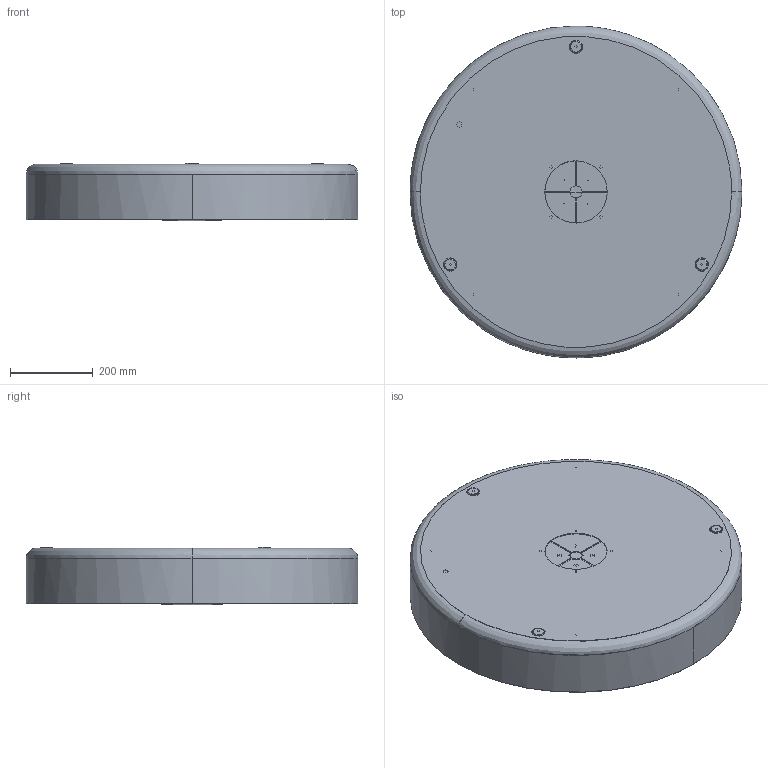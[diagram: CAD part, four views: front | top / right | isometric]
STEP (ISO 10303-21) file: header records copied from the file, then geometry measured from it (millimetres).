
FILE_DESCRIPTION(/* description */ (''),/* implementation_level */ '2;1');
FILE_NAME(/* name */ 'P092__~2',/* time_stamp */ '2024-07-01T14:32:56+02:00',/* author */ (''),/* organization */ (''),/* preprocessor_version */ 'ST-DEVELOPER v16.5',/* originating_system */ '',/* authorisation */ '');
FILE_SCHEMA (('AUTOMOTIVE_DESIGN'));
Length unit declared in the file: millimetre
Products named in the file (1): Document
Bounding box: 800 x 800 x 139.7 mm (x, y, z)
Volume: 3660008.2 mm3; surface area: 3744546.2 mm2
Topology: 7 solids, 7 shells, 485 faces, 1243 edges, 802 vertices
Faces by surface type: bspline 360, plane 125
Entity records: 25676 total; most frequent: CARTESIAN_POINT 18381, ORIENTED_EDGE 2478, EDGE_CURVE 1239, VERTEX_POINT 802, EDGE_LOOP 667, B_SPLINE_CURVE_WITH_KNOTS 529, ADVANCED_FACE 485, FACE_OUTER_BOUND 485
